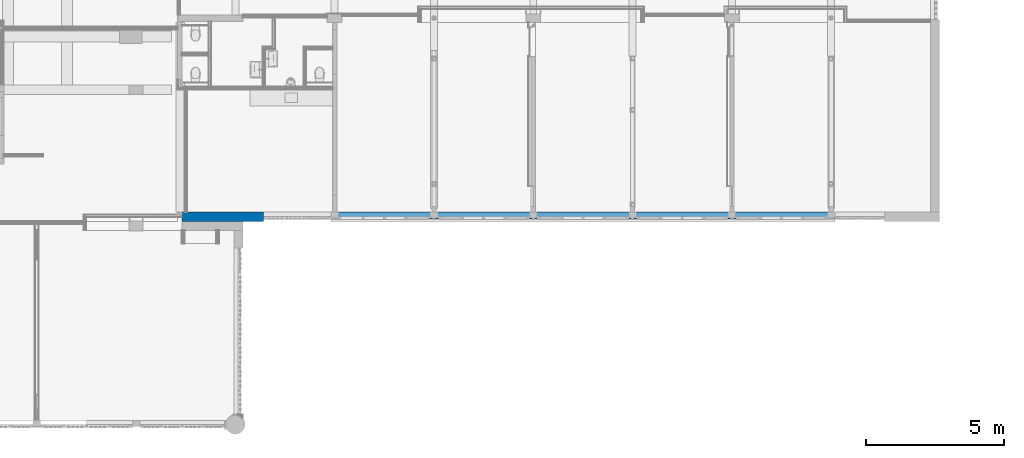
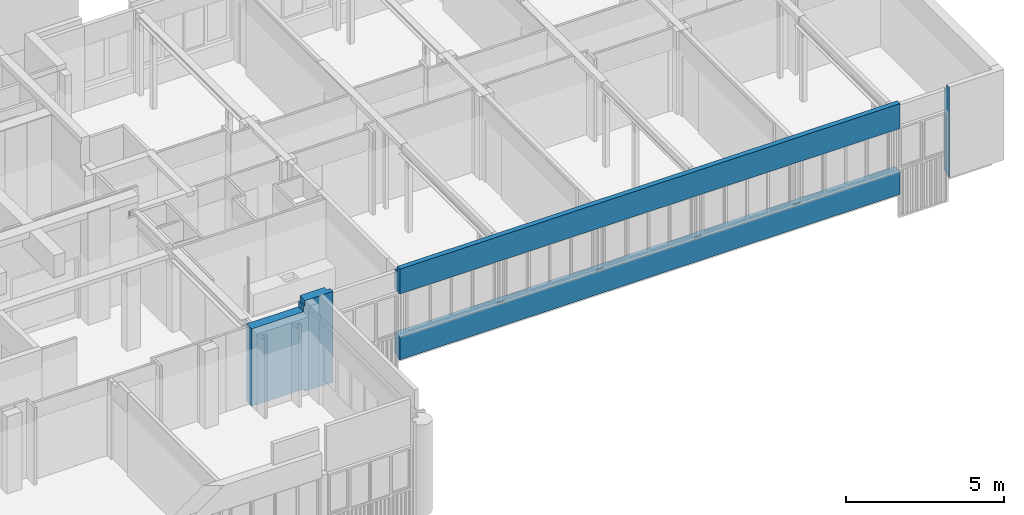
# One storey, part 39 of 117: 1 wall, 7 openings.
"""IFC2X3 building model written with IfcOpenShell, lengths in millimetres."""

from ifc_helpers import new_model, entity, si_unit, converted_unit, derived_unit, money_unit, direction, frame, origin_with_axes, place, context, subcontext, project, spatial, faceted_brep, material, type_object, element, save


model = new_model("IFC2X3")

# Units and contexts
model_context = context("Model", 3, precision=0.01, world=origin_with_axes(), true_north=direction((0.0, 1.0)))
body_context = subcontext(model_context, "Body", "Model", "MODEL_VIEW")
ifc_project = project(units=[si_unit("LENGTHUNIT", "METRE", prefix="MILLI"), si_unit("AREAUNIT", "SQUARE_METRE"), si_unit("VOLUMEUNIT", "CUBIC_METRE"), converted_unit("PLANEANGLEUNIT", "DEGREE", entity("IfcPlaneAngleMeasure", 0.0174532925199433), si_unit("PLANEANGLEUNIT", "RADIAN"), dimensions=[0, 0, 0, 0, 0, 0, 0]), money_unit("EUR"), converted_unit("TIMEUNIT", "Year", entity("IfcTimeMeasure", 31557600.0), si_unit("TIMEUNIT", "SECOND"), dimensions=[0, 0, 1, 0, 0, 0, 0]), si_unit("MASSUNIT", "GRAM", prefix="KILO"), si_unit("THERMODYNAMICTEMPERATUREUNIT", "DEGREE_CELSIUS"), si_unit("LUMINOUSINTENSITYUNIT", "LUMEN"), si_unit("ENERGYUNIT", "JOULE", prefix="MEGA"), derived_unit("THERMALCONDUCTANCEUNIT", [(si_unit("POWERUNIT", "WATT"), 1), (si_unit("LENGTHUNIT", "METRE"), -1), (si_unit("THERMODYNAMICTEMPERATUREUNIT", "KELVIN"), -1)]), derived_unit("SPECIFICHEATCAPACITYUNIT", [(si_unit("ENERGYUNIT", "JOULE"), 1), (si_unit("MASSUNIT", "GRAM", prefix="KILO"), -1), (si_unit("THERMODYNAMICTEMPERATUREUNIT", "KELVIN"), -1)]), derived_unit("MASSDENSITYUNIT", [(si_unit("MASSUNIT", "GRAM", prefix="KILO"), 1), (si_unit("VOLUMEUNIT", "CUBIC_METRE"), -1)])], contexts=[model_context])

# Site, building, storey
site_placement = place(None, origin_with_axes())
site = spatial("IfcSite", under=ifc_project, at=site_placement, Name="Site", CompositionType="ELEMENT")
building_placement = place(site_placement, origin_with_axes())
building = spatial("IfcBuilding", under=site, at=building_placement, Name="Naam gebouw", CompositionType="ELEMENT")
storey_placement = place(building_placement, frame((0.0, 0.0, 4150.0), z_axis=(0.0, 0.0, 1.0), x_axis=(1.0, 0.0, 0.0)))
storey = spatial("IfcBuildingStorey", under=building, at=storey_placement, Name="1e verdieping N", CompositionType="ELEMENT", Elevation=4150.0)

# Wall, openings
ifc_material = material(Name="ALG - CONSTRUCTIEF")
wall_type = type_object("IfcWallType", Name="ALG - CONSTRUCTIEF 330", PredefinedType="NOTDEFINED")
wall_placement = place(storey_placement, frame((55938.1567191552, 10990.91242510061, -99.99999999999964), z_axis=(0.0, 0.0, 1.0), x_axis=(-1.0, 0.0, 0.0)))
wall = element("IfcWall", 1, at=wall_placement, inside=storey, type_object=wall_type, material=ifc_material, Name="_Wand-x", context=body_context, shape_type="Brep", body=[
    faceted_brep([(22515.6567191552, 146.0000000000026, 3300.0), (22515.6567191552, 0.0, 3300.0), (22627.80906842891, 0.0, 3300.0), (22627.80906842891, 146.0000000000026, 3300.0), (22515.6567191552, 259.999999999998, 0.0), (22515.6567191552, 146.0000000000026, 0.0), (22515.6567191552, 146.0000000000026, 99.99999999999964), (22515.6567191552, 0.0, 99.99999999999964), (22515.6567191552, 146.0000000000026, 3500.0), (22515.6567191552, 259.999999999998, 3500.0), (22515.6567191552, 330.0000000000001, 3500.0), (22515.6567191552, 330.0000000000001, 0.0), (22627.80906842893, 0.0, 99.99999999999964), (22627.80906842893, 0.0, 0.0), (23538.15671915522, 0.0, 0.0), (23538.15671915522, 0.0, 99.99999999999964), (25481.15671915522, 0.0, 99.99999999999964), (25481.15671915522, 0.0, 3090.000000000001), (23592.68645907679, 0.0, 3090.000000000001), (23592.68645907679, 0.0, 3300.000000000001), (23538.15671915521, 0.0, 3300.0), (23538.15671915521, 0.0, 3500.0), (22627.80906842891, 0.0, 3500.0), (22627.80906842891, 146.0000000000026, 3500.0), (23538.15671915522, 330.0000000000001, 0.0), (22627.80906842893, 146.0000000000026, 0.0), (22627.80906842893, 146.0000000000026, 99.99999999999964), (23538.15671915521, 330.0000000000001, 3500.0), (25481.15671915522, 330.0000000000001, 99.99999999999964), (23538.15671915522, 330.0000000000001, 99.99999999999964), (23538.15671915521, 330.0000000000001, 3300.0), (23592.68645907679, 330.0000000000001, 3300.000000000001), (23592.68645907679, 330.0000000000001, 3090.000000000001), (25481.15671915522, 330.0000000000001, 3090.000000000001)], [[[0, 1, 2, 3]], [[4, 5, 6, 7, 1, 0, 8, 9, 10, 11]], [[1, 7, 12, 13, 14, 15, 16, 17, 18, 19, 20, 21, 22, 2]], [[3, 2, 22, 23]], [[8, 0, 3, 23]], [[5, 4, 11, 24, 14, 13, 25]], [[6, 5, 25, 26]], [[7, 6, 26, 12]], [[9, 8, 23, 22, 21, 27, 10]], [[28, 29, 24, 11, 10, 27, 30, 31, 32, 33]], [[25, 13, 12, 26]], [[29, 15, 14, 24]], [[28, 16, 15, 29]], [[28, 33, 17, 16]], [[32, 18, 17, 33]], [[32, 31, 19, 18]], [[20, 19, 31, 30]], [[30, 27, 21, 20]]]),
    faceted_brep([(0.6567191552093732, 0.0, 99.99999999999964), (0.6567191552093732, 0.0, 3300.0), (0.0, 0.0, 3300.0), (0.0, 0.0, 99.99999999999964), (0.6567191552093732, 146.0000000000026, 99.99999999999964), (0.6567191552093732, 146.0000000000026, 0.0), (0.6567191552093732, 330.0000000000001, 0.0), (0.6567191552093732, 330.0000000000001, 3500.0), (0.6567191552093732, 146.0000000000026, 3500.0), (0.6567191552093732, 146.0000000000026, 3300.0), (0.0, 146.0000000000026, 3300.0), (0.0, 146.0000000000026, 3500.0), (0.0, 330.0000000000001, 3500.0), (0.0, 330.0000000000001, 0.0), (0.0, 146.0000000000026, 0.0), (0.0, 146.0000000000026, 99.99999999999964)], [[[0, 1, 2, 3]], [[4, 5, 6, 7, 8, 9, 1, 0]], [[1, 9, 10, 2]], [[11, 12, 13, 14, 15, 3, 2, 10]], [[4, 0, 3, 15]], [[5, 4, 15, 14]], [[5, 14, 13, 6]], [[6, 13, 12, 7]], [[8, 7, 12, 11]], [[9, 8, 11, 10]]]),
    faceted_brep([(20075.65671915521, 0.0, 99.99999999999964), (20075.65671915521, 0.0, 883.0000000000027), (1800.656719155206, 0.0, 883.0000000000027), (1800.656719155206, 0.0, 99.99999999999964), (20075.65671915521, 259.9999999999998, 883.0000000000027), (20075.65671915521, 215.9999999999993, 883.0000000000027), (20075.65671915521, 146.0000000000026, 99.99999999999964), (20075.65671915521, 146.0000000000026, 0.0), (20075.65671915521, 259.9999999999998, 0.0), (20075.65671915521, 330.0000000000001, 0.0), (20075.65671915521, 330.0000000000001, 883.0000000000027), (19800.65671915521, 215.9999999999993, 883.0000000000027), (19800.65671915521, 259.999999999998, 883.0000000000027), (1800.656719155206, 330.0000000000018, 883.0000000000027), (1800.656719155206, 259.9999999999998, 883.0000000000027), (2075.656719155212, 260.0000000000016, 883.0000000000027), (2075.656719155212, 216.0000000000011, 883.0000000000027), (1800.656719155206, 216.0000000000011, 883.0000000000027), (5400.656719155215, 216.0000000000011, 883.0000000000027), (5400.656719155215, 259.9999999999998, 883.0000000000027), (5675.656719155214, 259.9999999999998, 883.0000000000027), (5675.656719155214, 216.0000000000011, 883.0000000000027), (9275.6567191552, 259.9999999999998, 883.0000000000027), (9275.6567191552, 215.9999999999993, 883.0000000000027), (9000.65671915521, 215.9999999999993, 883.0000000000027), (9000.65671915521, 259.999999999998, 883.0000000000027), (12600.6567191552, 215.9999999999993, 883.0000000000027), (12600.6567191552, 259.999999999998, 883.0000000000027), (12875.6567191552, 259.9999999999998, 883.0000000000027), (12875.6567191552, 215.9999999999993, 883.0000000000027), (16475.6567191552, 259.9999999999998, 883.0000000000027), (16475.6567191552, 215.9999999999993, 883.0000000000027), (16200.65671915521, 215.9999999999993, 883.0000000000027), (16200.65671915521, 259.999999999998, 883.0000000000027), (1800.656719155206, 330.0000000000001, 0.0), (1800.656719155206, 146.0000000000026, 0.0), (1800.656719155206, 146.0000000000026, 99.99999999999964)], [[[0, 1, 2, 3]], [[4, 5, 1, 0, 6, 7, 8, 9, 10]], [[1, 5, 11, 12, 4, 10, 13, 14, 15, 16, 17, 2], [18, 19, 20, 21], [22, 23, 24, 25], [26, 27, 28, 29], [30, 31, 32, 33]], [[3, 2, 17, 14, 13, 34, 35, 36]], [[6, 0, 3, 36]], [[5, 4, 12, 11]], [[7, 6, 36, 35]], [[8, 7, 35, 34, 9]], [[9, 34, 13, 10]], [[16, 15, 14, 17]], [[19, 18, 21, 20]], [[23, 22, 25, 24]], [[27, 26, 29, 28]], [[31, 30, 33, 32]]]),
    faceted_brep([(20075.65671915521, 0.0, 2539.999999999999), (20075.65671915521, 0.0, 3300.0), (1800.656719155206, 0.0, 3300.0), (1800.656719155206, 0.0, 2539.999999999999), (20075.65671915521, 259.9999999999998, 3500.0), (20075.65671915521, 146.0000000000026, 3500.0), (20075.65671915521, 146.0000000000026, 3300.0), (20075.65671915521, 215.9999999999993, 2539.999999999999), (20075.65671915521, 259.9999999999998, 2539.999999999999), (20075.65671915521, 330.0000000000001, 2539.999999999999), (20075.65671915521, 330.0000000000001, 3500.0), (1800.656719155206, 146.0000000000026, 3300.0), (1800.656719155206, 146.0000000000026, 3500.0), (1800.656719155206, 330.0000000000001, 3500.0), (1800.656719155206, 330.0000000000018, 2539.999999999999), (1800.656719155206, 259.9999999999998, 2539.999999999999), (1800.656719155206, 216.0000000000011, 2539.999999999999), (2075.656719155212, 216.0000000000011, 2539.999999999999), (2075.656719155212, 260.0000000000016, 2539.999999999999), (19800.65671915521, 259.999999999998, 2539.999999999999), (19800.65671915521, 215.9999999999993, 2539.999999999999), (5400.656719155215, 259.9999999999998, 2539.999999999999), (5400.656719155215, 216.0000000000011, 2539.999999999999), (5675.656719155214, 216.0000000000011, 2539.999999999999), (5675.656719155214, 259.9999999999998, 2539.999999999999), (9275.6567191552, 215.9999999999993, 2539.999999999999), (9275.6567191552, 259.9999999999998, 2539.999999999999), (9000.65671915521, 259.999999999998, 2539.999999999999), (9000.65671915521, 215.9999999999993, 2539.999999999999), (12600.6567191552, 259.999999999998, 2539.999999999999), (12600.6567191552, 215.9999999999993, 2539.999999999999), (12875.6567191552, 215.9999999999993, 2539.999999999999), (12875.6567191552, 259.9999999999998, 2539.999999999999), (16475.6567191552, 215.9999999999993, 2539.999999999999), (16475.6567191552, 259.9999999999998, 2539.999999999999), (16200.65671915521, 259.999999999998, 2539.999999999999), (16200.65671915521, 215.9999999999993, 2539.999999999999)], [[[0, 1, 2, 3]], [[4, 5, 6, 1, 0, 7, 8, 9, 10]], [[1, 6, 11, 2]], [[3, 2, 11, 12, 13, 14, 15, 16]], [[7, 0, 3, 16, 17, 18, 15, 14, 9, 8, 19, 20], [21, 22, 23, 24], [25, 26, 27, 28], [29, 30, 31, 32], [33, 34, 35, 36]], [[5, 4, 10, 13, 12]], [[6, 5, 12, 11]], [[8, 7, 20, 19]], [[9, 14, 13, 10]], [[18, 17, 16, 15]], [[22, 21, 24, 23]], [[26, 25, 28, 27]], [[30, 29, 32, 31]], [[34, 33, 36, 35]]]),
])
opening_1_placement = place(wall_placement, frame((3738.156719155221, 0.0, 883.0000000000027), z_axis=(0.0, 0.0, 1.0), x_axis=(1.0, 0.0, 0.0)))
element("IfcOpeningElement", 2, at=opening_1_placement, cuts=wall, Name="_Merk-038", context=body_context, shape_type="Brep", body=[
    faceted_brep([(-1937.5, 260.0000000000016, 0.0), (-1937.5, 260.0000000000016, 1656.999999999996), (-1937.5, 331.0000000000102, 1656.999999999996), (-1937.5, 331.0000000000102, 0.0), (-1937.5, -0.9999999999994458, 0.0), (-1937.5, -0.9999999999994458, 1656.999999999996), (1937.5, 259.9999999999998, 1656.999999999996), (1937.5, 331.0000000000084, 1656.999999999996), (1937.5, -1.000000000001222, 1656.999999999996), (1937.5, 331.0000000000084, 0.0), (1937.5, 259.9999999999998, 0.0), (1937.5, -1.000000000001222, 0.0)], [[[0, 1, 2, 3]], [[1, 0, 4, 5]], [[6, 7, 2, 1, 5, 8]], [[7, 9, 3, 2]], [[0, 3, 9, 10, 11, 4]], [[5, 4, 11, 8]], [[6, 10, 9, 7]], [[10, 6, 8, 11]]]),
])
opening_2_placement = place(wall_placement, frame((7338.156719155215, 0.0, 883.0000000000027), z_axis=(0.0, 0.0, 1.0), x_axis=(1.0, 0.0, 0.0)))
element("IfcOpeningElement", 3, at=opening_2_placement, cuts=wall, Name="_Merk-038", context=body_context, shape_type="Brep", body=[
    faceted_brep([(-1662.500000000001, 259.9999999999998, 0.0), (-1662.500000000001, 259.9999999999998, 1656.999999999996), (-1662.500000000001, 331.0000000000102, 1656.999999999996), (-1662.500000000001, 331.0000000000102, 0.0), (-1662.500000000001, -1.000000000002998, 0.0), (-1662.500000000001, -1.000000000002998, 1656.999999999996), (1937.5, 259.999999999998, 1656.999999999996), (1937.5, 331.0000000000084, 1656.999999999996), (1937.5, -1.000000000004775, 1656.999999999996), (1937.5, 331.0000000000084, 0.0), (1937.5, 259.999999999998, 0.0), (1937.5, -1.000000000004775, 0.0)], [[[0, 1, 2, 3]], [[1, 0, 4, 5]], [[6, 7, 2, 1, 5, 8]], [[7, 9, 3, 2]], [[0, 3, 9, 10, 11, 4]], [[5, 4, 11, 8]], [[6, 10, 9, 7]], [[10, 6, 8, 11]]]),
])
opening_3_placement = place(wall_placement, frame((14538.1567191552, 0.0, 883.0000000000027), z_axis=(0.0, 0.0, 1.0), x_axis=(1.0, 0.0, 0.0)))
element("IfcOpeningElement", 4, at=opening_3_placement, cuts=wall, Name="_Merk-038", context=body_context, shape_type="Brep", body=[
    faceted_brep([(-1662.500000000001, 259.9999999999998, 0.0), (-1662.500000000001, 259.9999999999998, 1656.999999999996), (-1662.500000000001, 331.0000000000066, 1656.999999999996), (-1662.500000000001, 331.0000000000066, 0.0), (-1662.500000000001, -1.000000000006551, 0.0), (-1662.500000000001, -1.000000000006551, 1656.999999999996), (1937.5, 259.999999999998, 1656.999999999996), (1937.5, 331.0000000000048, 1656.999999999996), (1937.5, -1.000000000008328, 1656.999999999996), (1937.5, 331.0000000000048, 0.0), (1937.5, 259.999999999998, 0.0), (1937.5, -1.000000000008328, 0.0)], [[[0, 1, 2, 3]], [[1, 0, 4, 5]], [[6, 7, 2, 1, 5, 8]], [[7, 9, 3, 2]], [[0, 3, 9, 10, 11, 4]], [[5, 4, 11, 8]], [[6, 10, 9, 7]], [[10, 6, 8, 11]]]),
])
opening_4_placement = place(wall_placement, frame((10938.1567191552, 0.0, 883.0000000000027), z_axis=(0.0, 0.0, 1.0), x_axis=(1.0, 0.0, 0.0)))
element("IfcOpeningElement", 5, at=opening_4_placement, cuts=wall, Name="_Merk-038", context=body_context, shape_type="Brep", body=[
    faceted_brep([(-1662.500000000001, 259.9999999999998, 0.0), (-1662.500000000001, 259.9999999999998, 1656.999999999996), (-1662.500000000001, 331.0000000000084, 1656.999999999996), (-1662.500000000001, 331.0000000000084, 0.0), (-1662.500000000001, -1.000000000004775, 0.0), (-1662.500000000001, -1.000000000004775, 1656.999999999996), (1937.5, 259.999999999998, 1656.999999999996), (1937.5, 331.0000000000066, 1656.999999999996), (1937.5, -1.000000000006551, 1656.999999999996), (1937.5, 331.0000000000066, 0.0), (1937.5, 259.999999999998, 0.0), (1937.5, -1.000000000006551, 0.0)], [[[0, 1, 2, 3]], [[1, 0, 4, 5]], [[6, 7, 2, 1, 5, 8]], [[7, 9, 3, 2]], [[0, 3, 9, 10, 11, 4]], [[5, 4, 11, 8]], [[6, 10, 9, 7]], [[10, 6, 8, 11]]]),
])
opening_5_placement = place(wall_placement, frame((18138.15671915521, 0.0, 883.0000000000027), z_axis=(0.0, 0.0, 1.0), x_axis=(1.0, 0.0, 0.0)))
element("IfcOpeningElement", 6, at=opening_5_placement, cuts=wall, Name="_Merk-038A", context=body_context, shape_type="Brep", body=[
    faceted_brep([(-1662.500000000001, 259.9999999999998, 0.0), (-1662.500000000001, 259.9999999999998, 1656.999999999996), (-1662.500000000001, 331.0000000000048, 1656.999999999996), (-1662.500000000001, 331.0000000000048, 0.0), (-1662.500000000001, -1.000000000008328, 0.0), (-1662.500000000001, -1.000000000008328, 1656.999999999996), (1937.5, 259.999999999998, 1656.999999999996), (1937.5, 331.0000000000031, 1656.999999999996), (1937.5, -1.000000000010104, 1656.999999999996), (1937.5, 331.0000000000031, 0.0), (1937.5, 259.999999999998, 0.0), (1937.5, -1.000000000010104, 0.0)], [[[0, 1, 2, 3]], [[1, 0, 4, 5]], [[6, 7, 2, 1, 5, 8]], [[7, 9, 3, 2]], [[0, 3, 9, 10, 11, 4]], [[5, 4, 11, 8]], [[6, 10, 9, 7]], [[10, 6, 8, 11]]]),
])
opening_6_placement = place(wall_placement, frame((900.656719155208, 0.0, -960.0000000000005), z_axis=(0.0, 0.0, 1.0), x_axis=(1.0, 0.0, 0.0)))
element("IfcOpeningElement", 7, at=opening_6_placement, cuts=wall, Name="_Merk-037", context=body_context, shape_type="Brep", body=[
    faceted_brep([(-899.9999999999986, 260.0000000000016, 0.0), (-899.9999999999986, 260.0000000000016, 4500.0), (-899.9999999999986, 331.0000000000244, 4500.0), (-899.9999999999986, 331.0000000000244, 0.0), (-899.9999999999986, -0.9999999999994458, 0.0), (-899.9999999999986, -0.9999999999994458, 4500.0), (899.9999999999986, 259.9999999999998, 4500.0), (899.9999999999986, 331.0000000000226, 4500.0), (899.9999999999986, -1.000000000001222, 4500.0), (899.9999999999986, 331.0000000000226, 0.0), (899.9999999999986, 259.9999999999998, 0.0), (899.9999999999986, -1.000000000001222, 0.0)], [[[0, 1, 2, 3]], [[1, 0, 4, 5]], [[6, 7, 2, 1, 5, 8]], [[7, 9, 3, 2]], [[0, 3, 9, 10, 11, 4]], [[5, 4, 11, 8]], [[6, 10, 9, 7]], [[10, 6, 8, 11]]]),
])
opening_7_placement = place(wall_placement, frame((21295.6567191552, 0.0, -959.9999999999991), z_axis=(0.0, 0.0, 1.0), x_axis=(1.0, 0.0, 0.0)))
element("IfcOpeningElement", 8, at=opening_7_placement, cuts=wall, Name="_Merk-040", context=body_context, shape_type="Brep", body=[
    faceted_brep([(-1219.999999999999, 259.9999999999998, -1060.0), (-1219.999999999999, 259.9999999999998, 4500.0), (-1219.999999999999, 331.0000000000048, 4500.0), (-1219.999999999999, 331.0000000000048, -1060.0), (-1219.999999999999, -1.000000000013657, -1060.0), (-1219.999999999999, -1.000000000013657, 4500.0), (1219.999999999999, 259.999999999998, 4500.0), (1219.999999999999, 331.0000000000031, 4500.0), (1219.999999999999, -1.000000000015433, 4500.0), (1219.999999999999, 331.0000000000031, -1060.0), (1219.999999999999, 259.999999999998, -1060.0), (1219.999999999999, -1.000000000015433, -1060.0)], [[[0, 1, 2, 3]], [[1, 0, 4, 5]], [[6, 7, 2, 1, 5, 8]], [[7, 9, 3, 2]], [[0, 3, 9, 10, 11, 4]], [[5, 4, 11, 8]], [[6, 10, 9, 7]], [[10, 6, 8, 11]]]),
])

save(model, "model.ifc")
